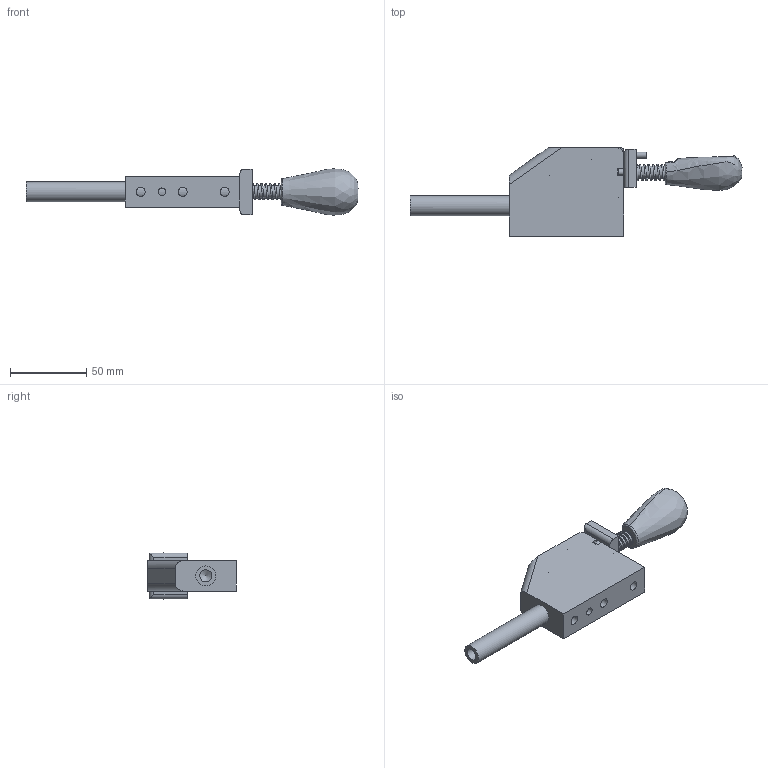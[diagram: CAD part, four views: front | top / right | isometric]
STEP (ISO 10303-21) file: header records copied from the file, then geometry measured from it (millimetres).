
FILE_DESCRIPTION(/* description */ (''),/* implementation_level */ '2;1');
FILE_NAME(/* name */ '\\192.168.1.150\pc03\Inventor\デュアルメカニズムクランプ最終\2017.10月　最新型\YSP-50ST-L\YSP-50ST-L-CLAMP.stp',/* time_stamp */ '2024-05-15T08:03:53+09:00',/* author */ ('Backup'),/* organization */ (''),/* preprocessor_version */ 'ST-DEVELOPER v17',/* originating_system */ 'Autodesk Inventor 2019',/* authorisation */ '');
FILE_SCHEMA (('AUTOMOTIVE_DESIGN { 1 0 10303 214 3 1 1 }'));
Length unit declared in the file: millimetre
Products named in the file (10): YSP-50ST-CLAMP; YO-M35S ボディ; 50-30_VER4_PG2__12; Φ8×40ｼｬﾌﾄ; YO-M35S　カム; YO－M３５S スライドバー; φ4×25; ロック機構; φ4×25_1; スプリング
Assembly tree (10 placements, depth 2):
  YSP-50ST-CLAMP
    YO-M35S ボディ
    50-30_VER4_PG2__12
    Φ8×40ｼｬﾌﾄ
    YO-M35S　カム
    YO－M３５S スライドバー
    φ4×25  x2
    ロック機構
    φ4×25_1
    スプリング
Bounding box: 217.24 x 58 x 30.18 mm (x, y, z)
Volume: 105352.9 mm3; surface area: 42511.5 mm2
Topology: 10 solids, 10 shells, 234 faces, 639 edges, 423 vertices
Faces by surface type: plane 115, cylinder 84, bspline 25, cone 6, sphere 4
Full cylindrical faces by diameter (mm): 0.01 x11, 1.306 x1, 3.2 x2, 4 x7, 4.1 x1, 5 x3, 5.1 x1, 6 x4, 8 x3, 8.1 x1, 13 x2
Entity records: 19000 total; most frequent: CARTESIAN_POINT 12775, ORIENTED_EDGE 1258, DIRECTION 1180, EDGE_CURVE 629, AXIS2_PLACEMENT_3D 423, VERTEX_POINT 420, LINE 334, VECTOR 334
